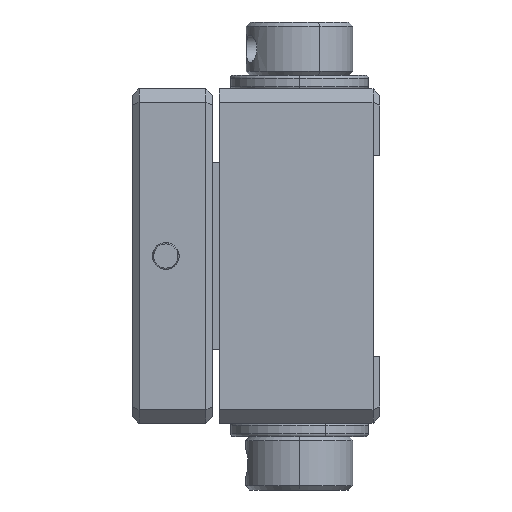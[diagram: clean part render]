
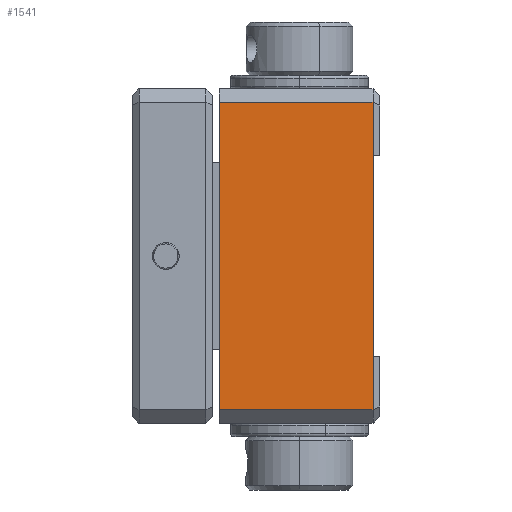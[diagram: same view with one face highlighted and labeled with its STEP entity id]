
A CAD part, left-side view. The second image highlights one B-rep face of the part: STEP entity #1541.
In plain terms, the highlighted planar face has unit normal (-1, 0, 0).
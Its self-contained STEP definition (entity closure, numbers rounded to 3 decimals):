
#89 = VERTEX_POINT ( 'NONE', #234 ) ;
#234 = CARTESIAN_POINT ( 'NONE',  ( -20.678, -9.163, 42.5 ) ) ;
#295 = ORIENTED_EDGE ( 'NONE', *, *, #7787, .T. ) ;
#358 = LINE ( 'NONE', #7428, #3500 ) ;
#457 = VECTOR ( 'NONE', #1997, 1000. ) ;
#567 = CARTESIAN_POINT ( 'NONE',  ( -20.678, 2.337, 46.5 ) ) ;
#732 = VECTOR ( 'NONE', #1318, 1000. ) ;
#754 = CARTESIAN_POINT ( 'NONE',  ( -20.678, -9.163, 22.5 ) ) ;
#991 = ORIENTED_EDGE ( 'NONE', *, *, #7209, .T. ) ;
#1107 = FACE_OUTER_BOUND ( 'NONE', #4571, .T. ) ;
#1194 = VERTEX_POINT ( 'NONE', #5490 ) ;
#1318 = DIRECTION ( 'NONE',  ( 0., 0., 1. ) ) ;
#1541 = ADVANCED_FACE ( 'NONE', ( #1107 ), #6561, .F. ) ;
#1695 = DIRECTION ( 'NONE',  ( 0., 0., 1. ) ) ;
#1761 = LINE ( 'NONE', #3997, #457 ) ;
#1959 = DIRECTION ( 'NONE',  ( 0., 0., -1. ) ) ;
#1997 = DIRECTION ( 'NONE',  ( 0., 0., 1. ) ) ;
#2007 = ORIENTED_EDGE ( 'NONE', *, *, #2447, .T. ) ;
#2284 = VERTEX_POINT ( 'NONE', #567 ) ;
#2400 = EDGE_CURVE ( 'NONE', #2882, #2284, #1761, .T. ) ;
#2447 = EDGE_CURVE ( 'NONE', #2882, #3808, #358, .T. ) ;
#2488 = EDGE_CURVE ( 'NONE', #89, #1194, #7489, .T. ) ;
#2492 = ORIENTED_EDGE ( 'NONE', *, *, #6906, .T. ) ;
#2564 = LINE ( 'NONE', #754, #732 ) ;
#2668 = VECTOR ( 'NONE', #6736, 1000. ) ;
#2674 = DIRECTION ( 'NONE',  ( 1., 0., 0. ) ) ;
#2791 = DIRECTION ( 'NONE',  ( 0., -1., 0. ) ) ;
#2882 = VERTEX_POINT ( 'NONE', #5331 ) ;
#3272 = ORIENTED_EDGE ( 'NONE', *, *, #2400, .F. ) ;
#3500 = VECTOR ( 'NONE', #2791, 1000. ) ;
#3808 = VERTEX_POINT ( 'NONE', #4543 ) ;
#3959 = CARTESIAN_POINT ( 'NONE',  ( -20.678, 2.337, 22.5 ) ) ;
#3997 = CARTESIAN_POINT ( 'NONE',  ( -20.678, 2.337, 22.5 ) ) ;
#4312 = CARTESIAN_POINT ( 'NONE',  ( -20.678, 2.337, 46.5 ) ) ;
#4543 = CARTESIAN_POINT ( 'NONE',  ( -20.678, -9.163, 23.5 ) ) ;
#4571 = EDGE_LOOP ( 'NONE', ( #8215, #295, #991, #3272, #2007, #2492 ) ) ;
#4949 = CARTESIAN_POINT ( 'NONE',  ( -20.678, -9.163, 46.5 ) ) ;
#5083 = AXIS2_PLACEMENT_3D ( 'NONE', #3959, #2674, #1959 ) ;
#5329 = VECTOR ( 'NONE', #1695, 1000. ) ;
#5331 = CARTESIAN_POINT ( 'NONE',  ( -20.678, 2.337, 23.5 ) ) ;
#5490 = CARTESIAN_POINT ( 'NONE',  ( -20.678, -9.163, 27.5 ) ) ;
#5530 = CARTESIAN_POINT ( 'NONE',  ( -20.678, -9.163, 22.5 ) ) ;
#5943 = LINE ( 'NONE', #5530, #5329 ) ;
#6561 = PLANE ( 'NONE',  #5083 ) ;
#6736 = DIRECTION ( 'NONE',  ( 0., 0., -1. ) ) ;
#6906 = EDGE_CURVE ( 'NONE', #3808, #1194, #2564, .T. ) ;
#6938 = DIRECTION ( 'NONE',  ( 0., 1., 0. ) ) ;
#7209 = EDGE_CURVE ( 'NONE', #7890, #2284, #7668, .T. ) ;
#7428 = CARTESIAN_POINT ( 'NONE',  ( -20.678, 2.337, 23.5 ) ) ;
#7489 = LINE ( 'NONE', #7976, #2668 ) ;
#7668 = LINE ( 'NONE', #4312, #8164 ) ;
#7787 = EDGE_CURVE ( 'NONE', #89, #7890, #5943, .T. ) ;
#7890 = VERTEX_POINT ( 'NONE', #4949 ) ;
#7976 = CARTESIAN_POINT ( 'NONE',  ( -20.678, -9.163, 42.5 ) ) ;
#8164 = VECTOR ( 'NONE', #6938, 1000. ) ;
#8215 = ORIENTED_EDGE ( 'NONE', *, *, #2488, .F. ) ;
